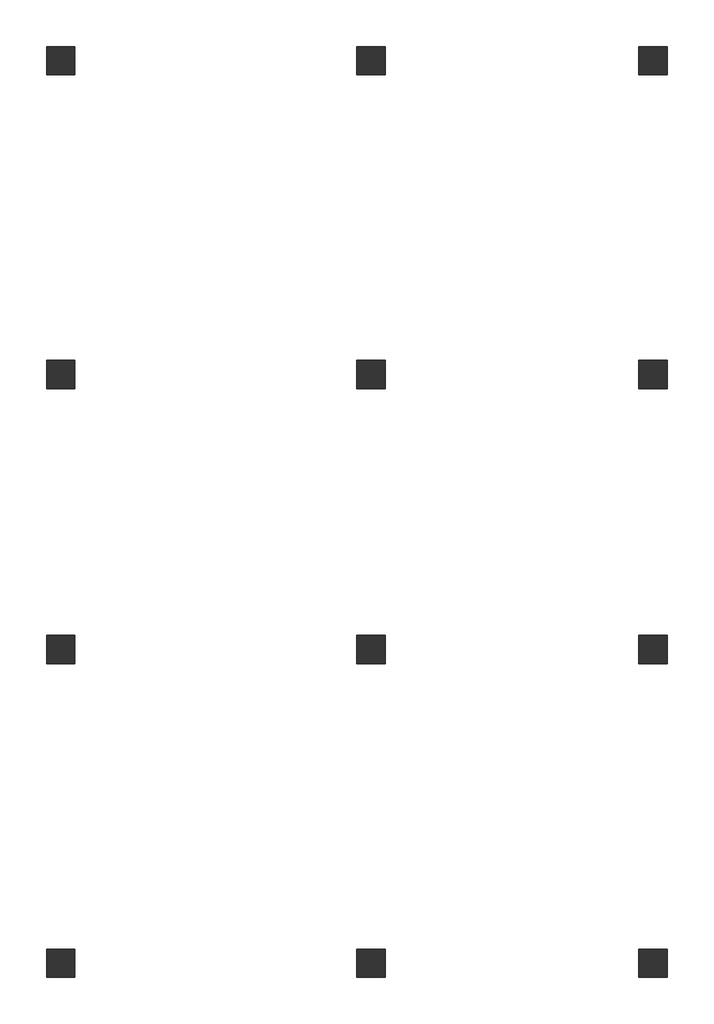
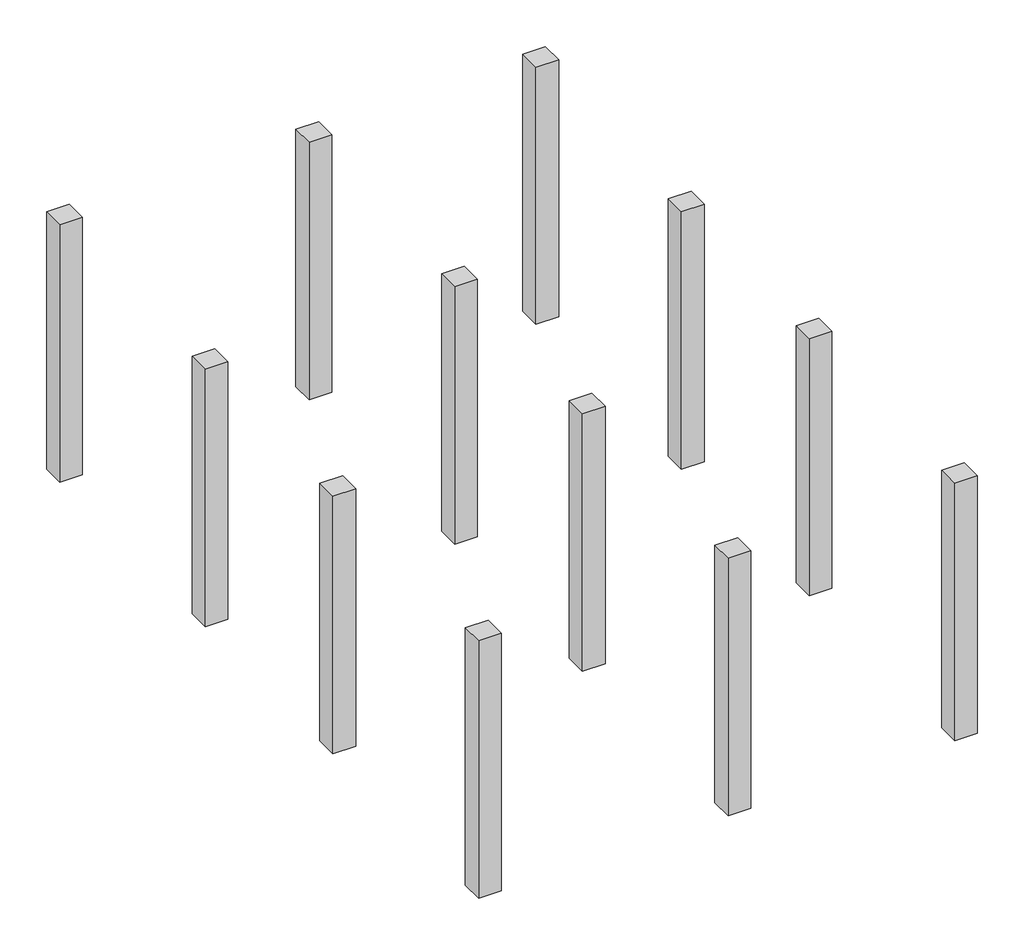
# One storey: 12 columns.
"""IFC4 building model written with IfcOpenShell, lengths in millimetres."""

from ifc_helpers import new_model, si_unit, origin, origin_with_axes, place, context, project, spatial, polyline, outline, extrude, element, save

model = new_model("IFC4")

# Units and contexts
model_context = context("Model", 3, world=origin())
ifc_project = project(units=[si_unit("LENGTHUNIT", "METRE", prefix="MILLI")], contexts=[model_context])

# Site, building, storey
site = spatial("IfcSite", under=ifc_project)
building = spatial("IfcBuilding", under=site)
storey = spatial("IfcBuildingStorey", under=building, Name="L1基礎底部", Elevation=0.0)

# Columns
placement = place(None, origin())
element("IfcColumn", 1, ObjectType="混凝土柱-矩形 : 40 x 40cm", at=placement, inside=storey, context=model_context, shape_type="SweptSolid", body=[
    extrude(outline(polyline([(-4915.0755076, 4733.8131142), (-4915.0755076, 4333.8131142), (-5315.0755076, 4333.8131142), (-5315.0755076, 4733.8131142), (-4915.0755076, 4733.8131142)])), origin_with_axes(), (0.0, 0.0, 1.0), 4800.0),
])
element("IfcColumn", 2, ObjectType="混凝土柱-矩形 : 40 x 40cm", at=placement, inside=storey, context=model_context, shape_type="SweptSolid", body=[
    extrude(outline(polyline([(-515.0755076, 4733.8131142), (-515.0755076, 4333.8131142), (-915.0755076, 4333.8131142), (-915.0755076, 4733.8131142), (-515.0755076, 4733.8131142)])), origin_with_axes(), (0.0, 0.0, 1.0), 4800.0),
])
element("IfcColumn", 3, ObjectType="混凝土柱-矩形 : 40 x 40cm", at=placement, inside=storey, context=model_context, shape_type="SweptSolid", body=[
    extrude(outline(polyline([(3084.9244924, 4333.8131142), (3084.9244924, 4733.8131142), (3484.9244924, 4733.8131142), (3484.9244924, 4333.8131142), (3084.9244924, 4333.8131142)])), origin_with_axes(), (0.0, 0.0, 1.0), 4800.0),
])
element("IfcColumn", 4, ObjectType="混凝土柱-矩形 : 40 x 40cm", at=placement, inside=storey, context=model_context, shape_type="SweptSolid", body=[
    extrude(outline(polyline([(-4915.0755076, 283.8131142), (-4915.0755076, -116.1868858), (-5315.0755076, -116.1868858), (-5315.0755076, 283.8131142), (-4915.0755076, 283.8131142)])), origin_with_axes(), (0.0, 0.0, 1.0), 4800.0),
])
element("IfcColumn", 5, ObjectType="混凝土柱-矩形 : 40 x 40cm", at=placement, inside=storey, context=model_context, shape_type="SweptSolid", body=[
    extrude(outline(polyline([(-515.0755076, 283.8131142), (-515.0755076, -116.1868858), (-915.0755076, -116.1868858), (-915.0755076, 283.8131142), (-515.0755076, 283.8131142)])), origin_with_axes(), (0.0, 0.0, 1.0), 4800.0),
])
element("IfcColumn", 6, ObjectType="混凝土柱-矩形 : 40 x 40cm", at=placement, inside=storey, context=model_context, shape_type="SweptSolid", body=[
    extrude(outline(polyline([(3484.9244924, 283.8131142), (3484.9244924, -116.1868858), (3084.9244924, -116.1868858), (3084.9244924, 283.8131142), (3484.9244924, 283.8131142)])), origin_with_axes(), (0.0, 0.0, 1.0), 4800.0),
])
element("IfcColumn", 7, ObjectType="混凝土柱-矩形 : 40 x 40cm", at=placement, inside=storey, context=model_context, shape_type="SweptSolid", body=[
    extrude(outline(polyline([(-4915.0755076, -8066.1868858), (-4915.0755076, -8466.1868858), (-5315.0755076, -8466.1868858), (-5315.0755076, -8066.1868858), (-4915.0755076, -8066.1868858)])), origin_with_axes(), (0.0, 0.0, 1.0), 4800.0),
])
element("IfcColumn", 8, ObjectType="混凝土柱-矩形 : 40 x 40cm", at=placement, inside=storey, context=model_context, shape_type="SweptSolid", body=[
    extrude(outline(polyline([(-515.0755076, -8066.1868858), (-515.0755076, -8466.1868858), (-915.0755076, -8466.1868858), (-915.0755076, -8066.1868858), (-515.0755076, -8066.1868858)])), origin_with_axes(), (0.0, 0.0, 1.0), 4800.0),
])
element("IfcColumn", 9, ObjectType="混凝土柱-矩形 : 40 x 40cm", at=placement, inside=storey, context=model_context, shape_type="SweptSolid", body=[
    extrude(outline(polyline([(3484.9244924, -8066.1868858), (3484.9244924, -8466.1868858), (3084.9244924, -8466.1868858), (3084.9244924, -8066.1868858), (3484.9244924, -8066.1868858)])), origin_with_axes(), (0.0, 0.0, 1.0), 4800.0),
])
element("IfcColumn", 10, ObjectType="混凝土柱-矩形 : 40 x 40cm", at=placement, inside=storey, context=model_context, shape_type="SweptSolid", body=[
    extrude(outline(polyline([(-4915.0755076, -3616.1868858), (-4915.0755076, -4016.1868858), (-5315.0755076, -4016.1868858), (-5315.0755076, -3616.1868858), (-4915.0755076, -3616.1868858)])), origin_with_axes(), (0.0, 0.0, 1.0), 4800.0),
])
element("IfcColumn", 11, ObjectType="混凝土柱-矩形 : 40 x 40cm", at=placement, inside=storey, context=model_context, shape_type="SweptSolid", body=[
    extrude(outline(polyline([(-515.0755076, -3616.1868858), (-515.0755076, -4016.1868858), (-915.0755076, -4016.1868858), (-915.0755076, -3616.1868858), (-515.0755076, -3616.1868858)])), origin_with_axes(), (0.0, 0.0, 1.0), 4800.0),
])
element("IfcColumn", 12, ObjectType="混凝土柱-矩形 : 40 x 40cm", at=placement, inside=storey, context=model_context, shape_type="SweptSolid", body=[
    extrude(outline(polyline([(3484.9244924, -3616.1868858), (3484.9244924, -4016.1868858), (3084.9244924, -4016.1868858), (3084.9244924, -3616.1868858), (3484.9244924, -3616.1868858)])), origin_with_axes(), (0.0, 0.0, 1.0), 4800.0),
])

save(model, "model.ifc")
